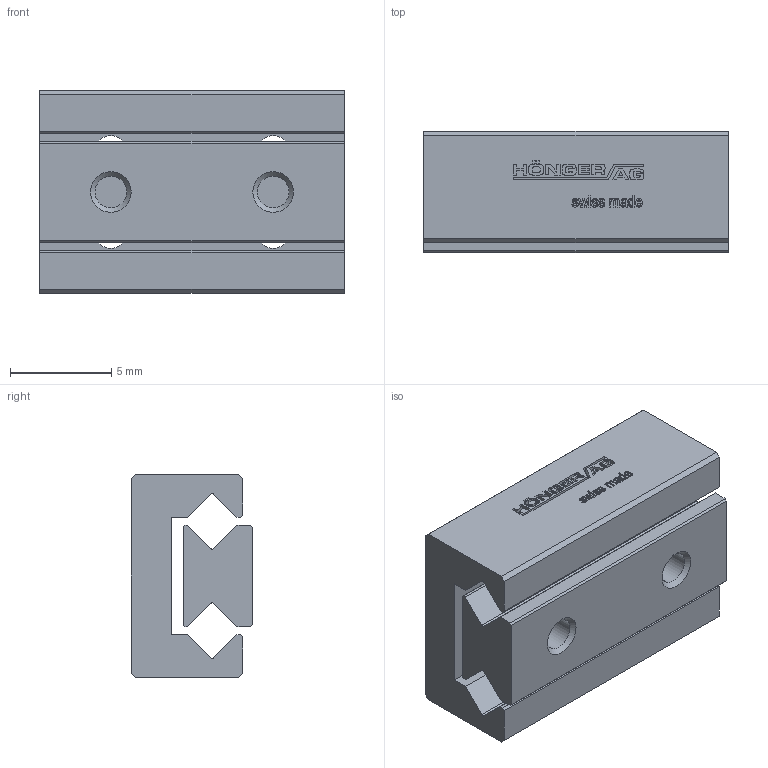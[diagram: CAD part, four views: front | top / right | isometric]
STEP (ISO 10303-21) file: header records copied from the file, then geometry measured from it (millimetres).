
FILE_DESCRIPTION(/* description */ ('STEP AP214'),/* implementation_level */ '2;1');
FILE_NAME(/* name */ 'MSR 5-15.10(0)',/* time_stamp */ '2025-04-16T17:17:29+02:00',/* author */ ('License CC BY-ND 4.0'),/* organization */ ('CADENAS'),/* preprocessor_version */ 'ST-DEVELOPER v19.3',/* originating_system */ 'PARTsolutions',/* authorisation */ ' ');
FILE_SCHEMA (('AUTOMOTIVE_DESIGN {1 0 10303 214 3 1 1}'));
Length unit declared in the file: millimetre
Products named in the file (3): MSR 5-15.10(0); MSR 5-15.10_1; MSR 5-15.10_2
Assembly tree (2 placements, depth 2):
  MSR 5-15.10(0)
    MSR 5-15.10_1
    MSR 5-15.10_2
Bounding box: 15 x 6 x 10 mm (x, y, z)
Volume: 656 mm3; surface area: 1017.8 mm2
Topology: 2 solids, 2 shells, 521 faces, 1466 edges, 976 vertices
Faces by surface type: cylinder 302, plane 211, cone 8
Full cylindrical faces by diameter (mm): 1.567 x6
Entity records: 17053 total; most frequent: DIRECTION 3108, CARTESIAN_POINT 2944, ORIENTED_EDGE 2896, EDGE_CURVE 1448, AXIS2_PLACEMENT_3D 1136, VERTEX_POINT 972, LINE 836, VECTOR 836
